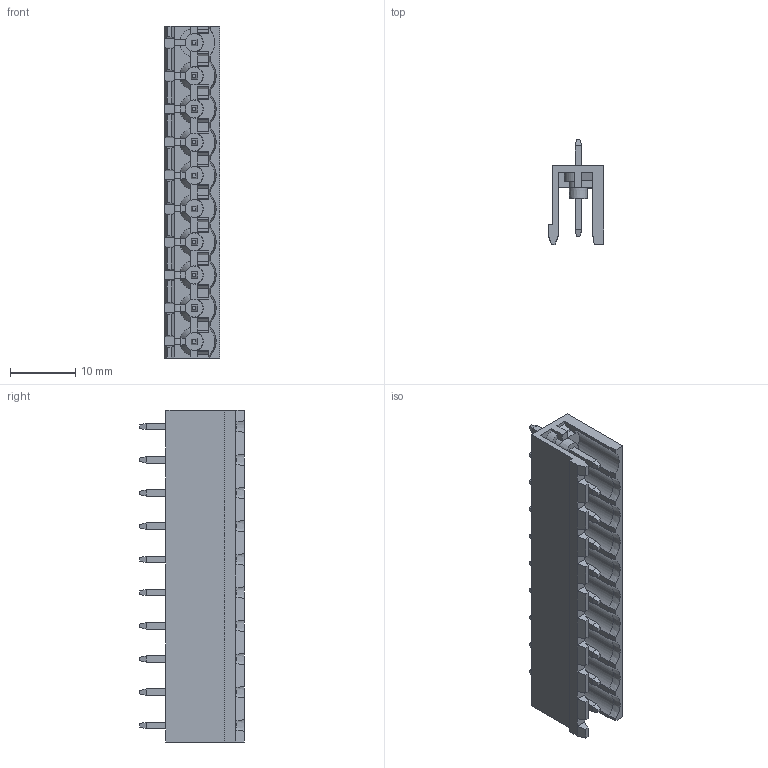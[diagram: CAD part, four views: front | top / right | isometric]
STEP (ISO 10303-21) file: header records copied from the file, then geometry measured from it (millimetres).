
FILE_DESCRIPTION (( 'STEP AP203' ), '1' );
FILE_NAME ('BR8MC1-10.STEP', '2020-03-18T02:59:30', ( '' ), ( '' ), 'SwSTEP 2.0', 'SolidWorks 2019', '' );
FILE_SCHEMA (( 'CONFIG_CONTROL_DESIGN' ));
Length unit declared in the file: millimetre
Products named in the file (1): BR8MC1-10
Bounding box: 8.5 x 16.03 x 50.8 mm (x, y, z)
Volume: 1925.7 mm3; surface area: 4293.3 mm2
Topology: 1 solids, 1 shells, 849 faces, 2214 edges, 1367 vertices
Faces by surface type: plane 731, cylinder 51, cone 47, sphere 20
Entity records: 25268 total; most frequent: CARTESIAN_POINT 4806, ORIENTED_EDGE 4348, DIRECTION 3981, EDGE_CURVE 2174, LINE 1861, VECTOR 1861, VERTEX_POINT 1347, AXIS2_PLACEMENT_3D 1060
